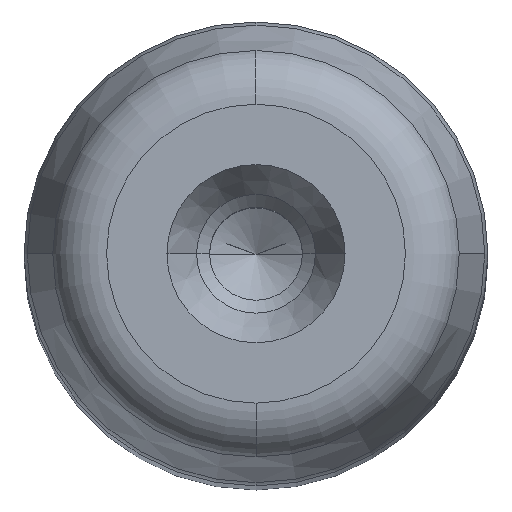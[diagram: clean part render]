
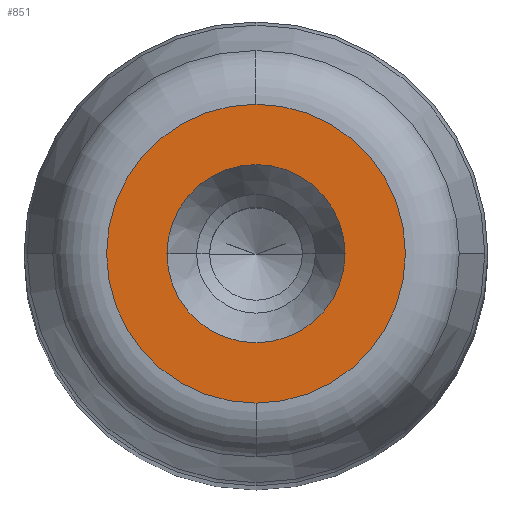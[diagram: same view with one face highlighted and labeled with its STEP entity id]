
A CAD part, top view. The second image highlights one B-rep face of the part: STEP entity #851.
In plain terms, the highlighted planar face has unit normal (0, 0, 1) as drawn and (0, 1, 0) by its records, which use the part's own axes.
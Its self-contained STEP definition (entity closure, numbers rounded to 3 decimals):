
#281=CARTESIAN_POINT('',(4.8,140.0,0.0));
#282=VERTEX_POINT('',#281);
#289=CARTESIAN_POINT('',(-4.8,140.0,0.));
#290=VERTEX_POINT('',#289);
#291=CARTESIAN_POINT('',(0.0,140.0,0.0));
#292=DIRECTION('',(0.0,1.0,0.0));
#293=DIRECTION('',(1.0,0.0,0.0));
#294=AXIS2_PLACEMENT_3D('',#291,#292,#293);
#295=CIRCLE('',#294,4.8);
#296=EDGE_CURVE('',#282,#290,#295,.T.);
#313=CARTESIAN_POINT('',(0.0,140.0,8.054));
#314=VERTEX_POINT('',#313);
#324=CARTESIAN_POINT('',(0.,140.0,-8.054));
#325=VERTEX_POINT('',#324);
#326=CARTESIAN_POINT('',(0.0,140.0,0.0));
#327=DIRECTION('',(0.0,1.0,0.0));
#328=DIRECTION('',(1.0,0.0,0.0));
#329=AXIS2_PLACEMENT_3D('',#326,#327,#328);
#330=CIRCLE('',#329,8.054);
#331=EDGE_CURVE('',#325,#314,#330,.T.);
#812=CARTESIAN_POINT('',(8.054,140.0,0.0));
#813=VERTEX_POINT('',#812);
#814=CARTESIAN_POINT('',(0.0,140.0,0.0));
#815=DIRECTION('',(0.0,1.0,0.0));
#816=DIRECTION('',(1.0,0.0,0.0));
#817=AXIS2_PLACEMENT_3D('',#814,#815,#816);
#818=CIRCLE('',#817,8.054);
#819=EDGE_CURVE('',#813,#325,#818,.T.);
#821=CARTESIAN_POINT('',(0.0,140.0,0.0));
#822=DIRECTION('',(0.0,1.0,0.0));
#823=DIRECTION('',(1.0,0.0,0.0));
#824=AXIS2_PLACEMENT_3D('',#821,#822,#823);
#825=CIRCLE('',#824,8.054);
#826=EDGE_CURVE('',#314,#813,#825,.T.);
#831=CARTESIAN_POINT('',(-8.86,140.0,-8.86));
#832=DIRECTION('',(0.0,1.0,0.0));
#833=DIRECTION('',(0.0,0.0,1.0));
#834=AXIS2_PLACEMENT_3D('',#831,#832,#833);
#835=PLANE('',#834);
#836=ORIENTED_EDGE('',*,*,#819,.T.);
#837=ORIENTED_EDGE('',*,*,#331,.T.);
#838=ORIENTED_EDGE('',*,*,#826,.T.);
#839=EDGE_LOOP('',(#836,#837,#838));
#840=FACE_OUTER_BOUND('',#839,.T.);
#841=ORIENTED_EDGE('',*,*,#296,.F.);
#842=CARTESIAN_POINT('',(0.0,140.0,0.0));
#843=DIRECTION('',(0.0,1.0,0.0));
#844=DIRECTION('',(1.0,0.0,0.0));
#845=AXIS2_PLACEMENT_3D('',#842,#843,#844);
#846=CIRCLE('',#845,4.8);
#847=EDGE_CURVE('',#290,#282,#846,.T.);
#848=ORIENTED_EDGE('',*,*,#847,.F.);
#849=EDGE_LOOP('',(#841,#848));
#850=FACE_BOUND('',#849,.T.);
#851=ADVANCED_FACE('',(#840,#850),#835,.T.);
